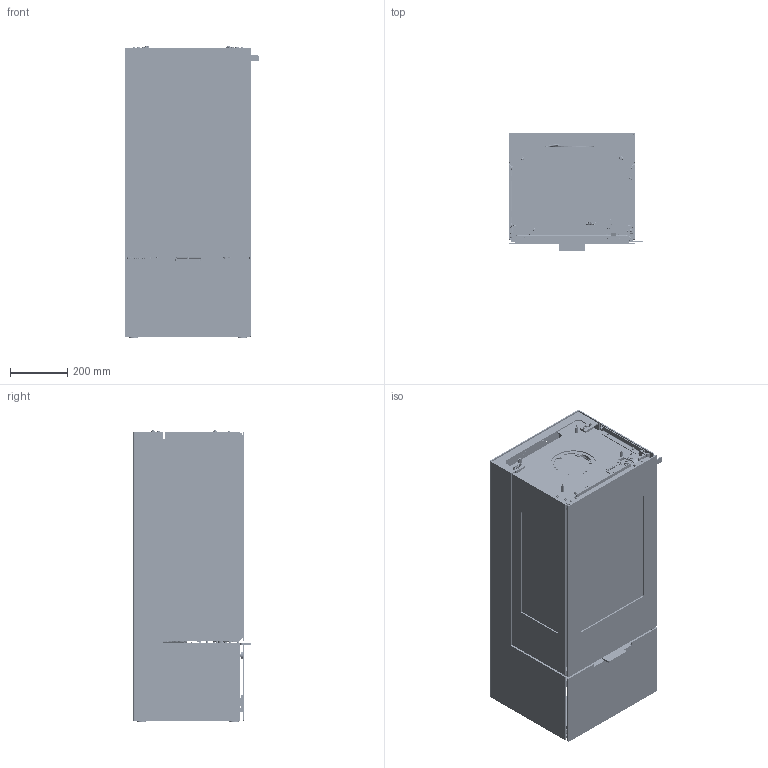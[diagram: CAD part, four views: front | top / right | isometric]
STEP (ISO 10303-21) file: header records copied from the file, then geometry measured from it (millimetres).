
FILE_DESCRIPTION(/* description */ (''),/* implementation_level */ '2;1');
FILE_NAME(/* name */ 'C:\Users\pch.RAIS\Desktop\Ann Charlotte\10-0171.stp',/* time_stamp */ '2018-09-28T10:52:41+02:00',/* author */ ('pch'),/* organization */ (''),/* preprocessor_version */ 'ST-DEVELOPER v16.13',/* originating_system */ 'Autodesk Inventor 2018',/* authorisation */ '');
FILE_SCHEMA (('AUTOMOTIVE_DESIGN { 1 0 10303 214 3 1 1 }'));
Products named in the file (213): 10-0171; 10-0131; 10-0111mon; 10-0111-0101sv; 10-0111-010101; 10-0111-010102; 10-0111-010103; 10-0111-010104; 2610409; 2610410; 10-0000-1201sv; 10-0000-120101; 10-0000-120103; 10-0000-120104; 10-0000-120105; 10-0000-120106; 10-0000-120107; 10-0000-120108; 10-0000-120109; 10-0000-120110; 10-0000-120111; 10-0000-120112; 10-0000-120113; 10-0000-120120; 10-0000-120102; 10-0000-120123; 10-0000-120121; 1711208; 10-34; 10-37; 10-0111-010105; 10-0000-120118; 10-0000-120119; 10-0101-010105; 1710912sv; 1710912; 4021219; 62-03SV; 0110-M6X12 SV.BOLT; 62-03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
Assembly tree (437 placements, depth 5):
  10-0171
    10-0131
      10-0111mon
        10-0111-0101sv
          10-0111-010101
          10-0111-010102
          10-0111-010103
          10-0111-010104
          2610409
          2610410
          0110-M5x8 CYL RÅ LH  x2
        10-0000-1201sv
          10-0000-120101
          10-0000-120103
          10-0000-120104
          10-0000-120105
          10-0000-120106
          10-0000-120107
          10-0000-120108  x2
          10-0000-120109
          10-0000-120110
          10-0000-120111
          10-0000-120112
          10-0000-120113
          10-0000-120120
          10-0000-120102
          10-0000-120123
          10-0000-120121
          1711208
          10-37  x4
          10-34  x2
        10-0111-010105  x2
        10-0000-120118
        10-0000-120119
        10-0101-010105
        1710912sv
          1710912
          4021219
        62-03SV
          0110-M6X12 SV.BOLT  x3
          62-03
        0005580
        3040117
        0110-M5X12 CYL RÅ  x16
        0110-m5 skive plan R  x6
        0110-M5 SKIVE PLAN  x2
        0110-M6X16 6KT FL  x2
        0110-M6 MØTRIK RÅ  x3
        0110-M6 SKIVE FJ
        0110-8X20/M6 PB  x2
        1010-8-14X16 Leje  x2
      10-0000-1003
        10-0000-1002sv
          10-0000-100201
          10-0000-100202
          10-0000-100208  x2
          10-0000-100204  x2
          10-0000-100205  x2
          10-0000-100206  x2
          0110-M5-Ø7,1X10SV.B.  x6
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Bounding box: 469 x 416.51 x 1022 mm (x, y, z)
Volume: 35416838.4 mm3; surface area: 11762610.5 mm2
Topology: 412 solids, 412 shells, 11702 faces, 28973 edges, 18249 vertices
Faces by surface type: plane 6357, cylinder 3669, bspline 650, cone 459, torus 367, sphere 200
Full cylindrical faces by diameter (mm): 1.2 x6, 1.5 x6, 1.75 x3, 2 x4, 2.34 x2, 2.7 x2, 2.89 x2, 3 x1, 3.2 x1, 3.3 x2, 3.5 x27, 4 x5, 4.134 x4, 4.2 x116, 4.3 x6, 4.773 x2, 4.917 x3, 4.95 x5, 4.99 x4, 5 x184, 5.1 x25, 5.2 x19, 5.3 x17, 5.5 x18, 5.8 x2, 5.9 x4, 6 x57, 6.1 x4, 6.2 x8, 6.4 x4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
Entity records: 279109 total; most frequent: CARTESIAN_POINT 82907, DIRECTION 39624, ORIENTED_EDGE 38002, EDGE_CURVE 19001, AXIS2_PLACEMENT_3D 13678, VERTEX_POINT 12433, LINE 12268, VECTOR 12268
